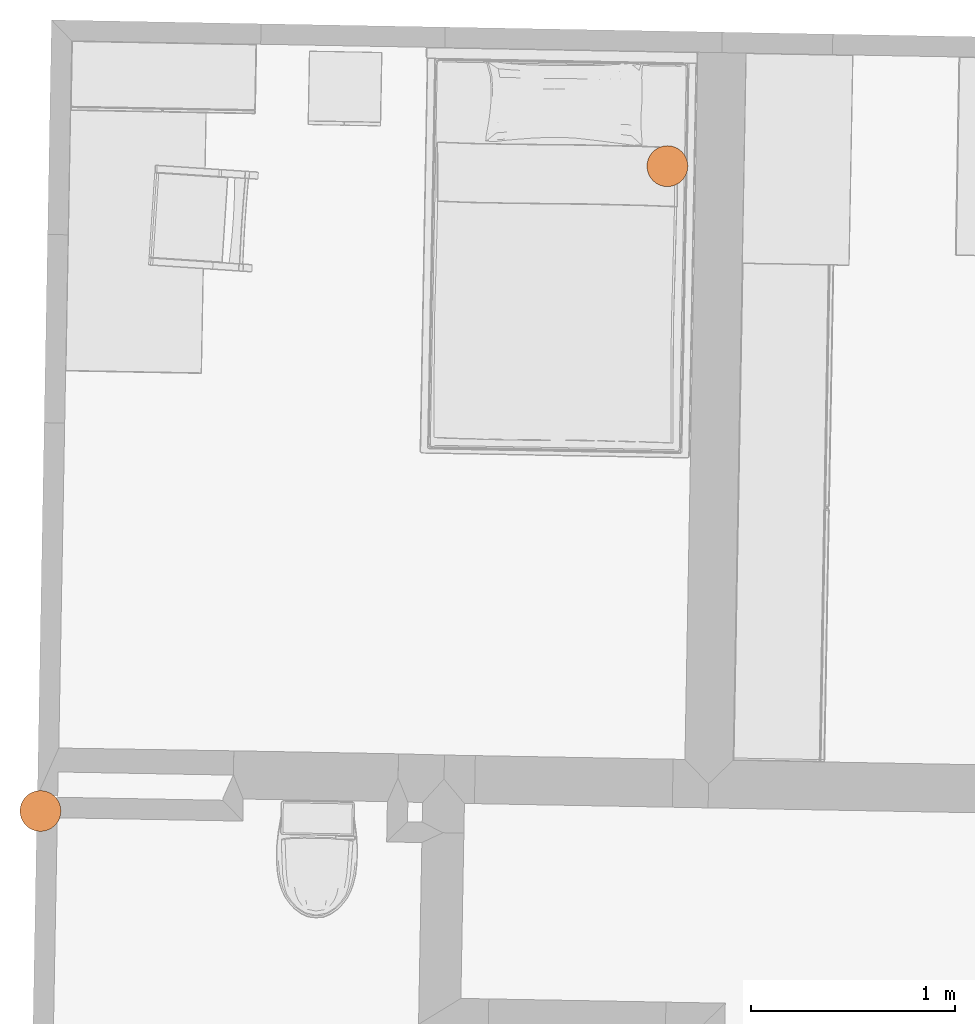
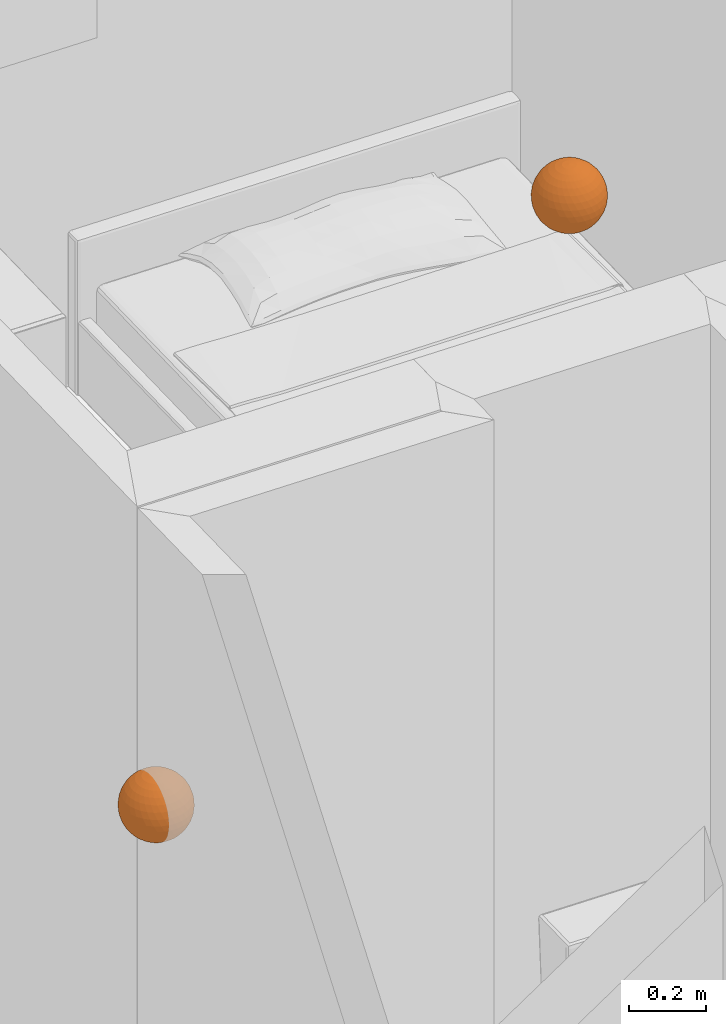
# One storey, part 9 of 9: 2 proxies.
"""IFC2X3 building model written with IfcOpenShell, lengths in metres."""

from ifc_helpers import new_model, entity, si_unit, frame, origin_with_axes, place, context, subcontext, project, spatial, element, save


model = new_model("IFC2X3")

# Units and contexts
model_context = context("Model", 3, precision=1e-05, world=origin_with_axes())
body_context = subcontext(model_context, "Body", "Model", "MODEL_VIEW")
ifc_project = project(units=[si_unit("AREAUNIT", "SQUARE_METRE"), si_unit("LENGTHUNIT", "METRE")], contexts=[model_context])

# Site, building, storey
site_placement = place(None, origin_with_axes())
site = spatial("IfcSite", under=ifc_project, at=site_placement, Name="Site", CompositionType="ELEMENT")
building_placement = place(site_placement, origin_with_axes())
building = spatial("IfcBuilding", under=site, at=building_placement, Name="Building", CompositionType="ELEMENT")
storey_placement = place(building_placement, frame((0.0, 0.0, 5.74363407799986), z_axis=(0.0, 0.0, 1.0), x_axis=(1.0, 0.0, 0.0)))
storey = spatial("IfcBuildingStorey", under=building, at=storey_placement, Name="Story 2", CompositionType="ELEMENT", Elevation=5.7436338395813)

# Proxy
proxy_1_placement = place(storey_placement, frame((-7.74465990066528, -1.09757995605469, 1.59492984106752), z_axis=(0.0, 0.0, 1.0), x_axis=(1.0, 0.0, 0.0)))
element("IfcBuildingElementProxy", 1, at=proxy_1_placement, inside=storey, Name="PointOfInterest", ObjectType="PointOfInterest", context=body_context, shape_type="CSG", body=[
    entity("IfcSphere", entity("IfcAxis2Placement3D", entity("IfcCartesianPoint", [0.0, 0.0, 0.0]), entity("IfcDirection", [0.0, 0.0, 1.0]), entity("IfcDirection", [1.0, 0.0, 0.0])), 0.1),
])

# Space
space_placement = place(storey_placement, frame((-6.7996530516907, -0.801034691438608, 0.0), z_axis=(0.0, 0.0, 1.0), x_axis=(1.0, 0.0, 0.0)))
space = spatial("IfcSpace", under=storey, at=space_placement, Name="010", CompositionType="ELEMENT", InteriorOrExteriorSpace="INTERNAL")

# Proxy
proxy_2_placement = place(space_placement, frame((2.12113761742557, 2.85696316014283, 0.550229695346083), z_axis=(0.0, 0.0, 1.0), x_axis=(1.0, 0.0, 0.0)))
element("IfcBuildingElementProxy", 2, at=proxy_2_placement, inside=space, Name="PointOfInterest", ObjectType="PointOfInterest", context=body_context, shape_type="CSG", body=[
    entity("IfcSphere", entity("IfcAxis2Placement3D", entity("IfcCartesianPoint", [0.0, 0.0, 0.0]), entity("IfcDirection", [0.0, 0.0, 1.0]), entity("IfcDirection", [1.0, 0.0, 0.0])), 0.1),
])

save(model, "model.ifc")
